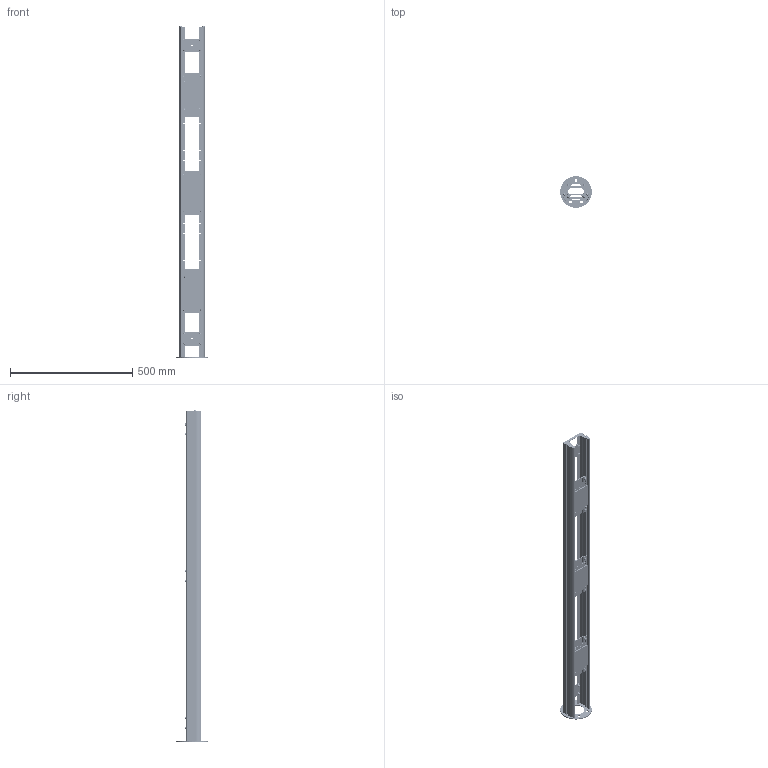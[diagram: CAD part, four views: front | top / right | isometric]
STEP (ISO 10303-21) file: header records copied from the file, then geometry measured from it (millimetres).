
FILE_DESCRIPTION(/* description */ (''),/* implementation_level */ '2;1');
FILE_NAME(/* name */ '0002A__3_INDIPENDENT_MIRRORS_1350mm.stp',/* time_stamp */ '2025-11-26T15:19:04+01:00',/* author */ (''),/* organization */ (''),/* preprocessor_version */ 'ST-DEVELOPER v20',/* originating_system */ 'SIEMENS PLM Software NX2412.4001',/* authorisation */ '');
FILE_SCHEMA (('AP203_CONFIGURATION_CONTROLLED_3D_DESIGN_OF_MECHANICAL_PARTS_AND_ASSEMBLIES_MIM_LF { 1 0 10303 403 2 1 2}'));
Products named in the file (1): AS007806_objects
Bounding box: 130 x 130 x 1358.25 mm (x, y, z)
Volume: 5110865.6 mm3; surface area: 5220576.4 mm2
Topology: 211 solids, 211 shells, 8164 faces, 22039 edges, 14361 vertices
Faces by surface type: plane 4258, cylinder 2247, cone 1493, torus 119, bspline 43, sphere 4
Full cylindrical faces by diameter (mm): 0.1 x3, 3.3 x9, 3.838 x9, 4.2 x24, 4.3 x9, 4.826 x192, 5 x252, 5.2 x24, 5.25 x2, 5.3 x12, 5.5 x48, 5.6 x12, 5.795 x28, 7 x33, 7.2 x4, 8.5 x36, 9 x21, 10 x12, 12 x7, 15 x12, 68 x1, 130 x1
Entity records: 328264 total; most frequent: CARTESIAN_POINT 122783, DIRECTION 43982, ORIENTED_EDGE 40434, EDGE_CURVE 20217, AXIS2_PLACEMENT_3D 16879, VERTEX_POINT 13614, LINE 10224, VECTOR 10224
